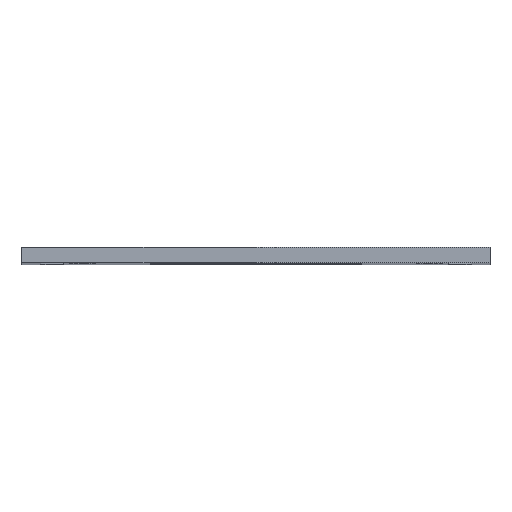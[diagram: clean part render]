
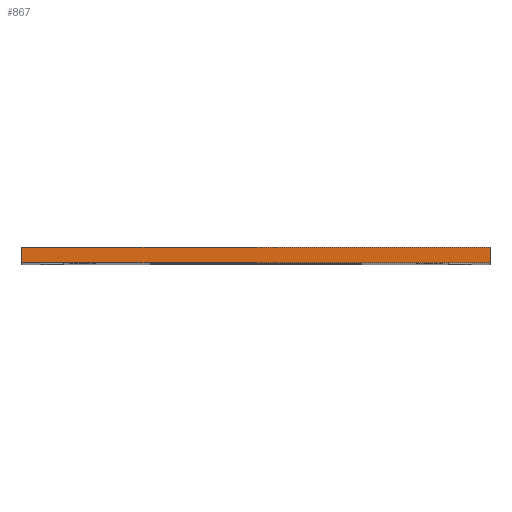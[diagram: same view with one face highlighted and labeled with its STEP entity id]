
A CAD part, top view. The second image highlights one B-rep face of the part: STEP entity #867.
In plain terms, the highlighted planar face has unit normal (0, 0, 1).
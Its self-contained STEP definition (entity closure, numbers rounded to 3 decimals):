
#24 = VERTEX_POINT('',#25);
#25 = CARTESIAN_POINT('',(-31.,15.,-1.));
#32 = PLANE('',#33);
#33 = AXIS2_PLACEMENT_3D('',#34,#35,#36);
#34 = CARTESIAN_POINT('',(-31.,15.,-149.));
#35 = DIRECTION('',(1.,0.,0.));
#36 = DIRECTION('',(0.,0.,1.));
#44 = PLANE('',#45);
#45 = AXIS2_PLACEMENT_3D('',#46,#47,#48);
#46 = CARTESIAN_POINT('',(-31.,15.,-149.));
#47 = DIRECTION('',(0.,1.,0.));
#48 = DIRECTION('',(0.,0.,1.));
#85 = VERTEX_POINT('',#86);
#86 = CARTESIAN_POINT('',(-31.,17.,-1.));
#100 = PLANE('',#101);
#101 = AXIS2_PLACEMENT_3D('',#102,#103,#104);
#102 = CARTESIAN_POINT('',(-31.,17.,-149.));
#103 = DIRECTION('',(0.,1.,0.));
#104 = DIRECTION('',(0.,0.,1.));
#112 = EDGE_CURVE('',#24,#85,#113,.T.);
#113 = SURFACE_CURVE('',#114,(#118,#125),.PCURVE_S1.);
#114 = LINE('',#115,#116);
#115 = CARTESIAN_POINT('',(-31.,15.,-1.));
#116 = VECTOR('',#117,1.);
#117 = DIRECTION('',(0.,1.,0.));
#118 = PCURVE('',#32,#119);
#119 = DEFINITIONAL_REPRESENTATION('',(#120),#124);
#120 = LINE('',#121,#122);
#121 = CARTESIAN_POINT('',(148.,0.));
#122 = VECTOR('',#123,1.);
#123 = DIRECTION('',(0.,-1.));
#124 = ( GEOMETRIC_REPRESENTATION_CONTEXT(2) 
PARAMETRIC_REPRESENTATION_CONTEXT() REPRESENTATION_CONTEXT('2D SPACE',''
  ) );
#125 = PCURVE('',#126,#131);
#126 = PLANE('',#127);
#127 = AXIS2_PLACEMENT_3D('',#128,#129,#130);
#128 = CARTESIAN_POINT('',(-31.,15.,-1.));
#129 = DIRECTION('',(0.,0.,1.));
#130 = DIRECTION('',(1.,0.,0.));
#131 = DEFINITIONAL_REPRESENTATION('',(#132),#136);
#132 = LINE('',#133,#134);
#133 = CARTESIAN_POINT('',(0.,0.));
#134 = VECTOR('',#135,1.);
#135 = DIRECTION('',(0.,1.));
#136 = ( GEOMETRIC_REPRESENTATION_CONTEXT(2) 
PARAMETRIC_REPRESENTATION_CONTEXT() REPRESENTATION_CONTEXT('2D SPACE',''
  ) );
#165 = EDGE_CURVE('',#24,#166,#168,.T.);
#166 = VERTEX_POINT('',#167);
#167 = CARTESIAN_POINT('',(31.,15.,-1.));
#168 = SURFACE_CURVE('',#169,(#173,#180),.PCURVE_S1.);
#169 = LINE('',#170,#171);
#170 = CARTESIAN_POINT('',(-31.,15.,-1.));
#171 = VECTOR('',#172,1.);
#172 = DIRECTION('',(1.,0.,0.));
#173 = PCURVE('',#44,#174);
#174 = DEFINITIONAL_REPRESENTATION('',(#175),#179);
#175 = LINE('',#176,#177);
#176 = CARTESIAN_POINT('',(148.,0.));
#177 = VECTOR('',#178,1.);
#178 = DIRECTION('',(0.,1.));
#179 = ( GEOMETRIC_REPRESENTATION_CONTEXT(2) 
PARAMETRIC_REPRESENTATION_CONTEXT() REPRESENTATION_CONTEXT('2D SPACE',''
  ) );
#180 = PCURVE('',#126,#181);
#181 = DEFINITIONAL_REPRESENTATION('',(#182),#186);
#182 = LINE('',#183,#184);
#183 = CARTESIAN_POINT('',(0.,0.));
#184 = VECTOR('',#185,1.);
#185 = DIRECTION('',(1.,0.));
#186 = ( GEOMETRIC_REPRESENTATION_CONTEXT(2) 
PARAMETRIC_REPRESENTATION_CONTEXT() REPRESENTATION_CONTEXT('2D SPACE',''
  ) );
#202 = PLANE('',#203);
#203 = AXIS2_PLACEMENT_3D('',#204,#205,#206);
#204 = CARTESIAN_POINT('',(31.,15.,-149.));
#205 = DIRECTION('',(1.,0.,0.));
#206 = DIRECTION('',(0.,0.,1.));
#867 = ADVANCED_FACE('',(#868),#126,.T.);
#868 = FACE_BOUND('',#869,.T.);
#869 = EDGE_LOOP('',(#870,#871,#872,#895));
#870 = ORIENTED_EDGE('',*,*,#112,.F.);
#871 = ORIENTED_EDGE('',*,*,#165,.T.);
#872 = ORIENTED_EDGE('',*,*,#873,.T.);
#873 = EDGE_CURVE('',#166,#874,#876,.T.);
#874 = VERTEX_POINT('',#875);
#875 = CARTESIAN_POINT('',(31.,17.,-1.));
#876 = SURFACE_CURVE('',#877,(#881,#888),.PCURVE_S1.);
#877 = LINE('',#878,#879);
#878 = CARTESIAN_POINT('',(31.,15.,-1.));
#879 = VECTOR('',#880,1.);
#880 = DIRECTION('',(0.,1.,0.));
#881 = PCURVE('',#126,#882);
#882 = DEFINITIONAL_REPRESENTATION('',(#883),#887);
#883 = LINE('',#884,#885);
#884 = CARTESIAN_POINT('',(62.,0.));
#885 = VECTOR('',#886,1.);
#886 = DIRECTION('',(0.,1.));
#887 = ( GEOMETRIC_REPRESENTATION_CONTEXT(2) 
PARAMETRIC_REPRESENTATION_CONTEXT() REPRESENTATION_CONTEXT('2D SPACE',''
  ) );
#888 = PCURVE('',#202,#889);
#889 = DEFINITIONAL_REPRESENTATION('',(#890),#894);
#890 = LINE('',#891,#892);
#891 = CARTESIAN_POINT('',(148.,0.));
#892 = VECTOR('',#893,1.);
#893 = DIRECTION('',(0.,-1.));
#894 = ( GEOMETRIC_REPRESENTATION_CONTEXT(2) 
PARAMETRIC_REPRESENTATION_CONTEXT() REPRESENTATION_CONTEXT('2D SPACE',''
  ) );
#895 = ORIENTED_EDGE('',*,*,#896,.F.);
#896 = EDGE_CURVE('',#85,#874,#897,.T.);
#897 = SURFACE_CURVE('',#898,(#902,#909),.PCURVE_S1.);
#898 = LINE('',#899,#900);
#899 = CARTESIAN_POINT('',(-31.,17.,-1.));
#900 = VECTOR('',#901,1.);
#901 = DIRECTION('',(1.,0.,0.));
#902 = PCURVE('',#126,#903);
#903 = DEFINITIONAL_REPRESENTATION('',(#904),#908);
#904 = LINE('',#905,#906);
#905 = CARTESIAN_POINT('',(0.,2.));
#906 = VECTOR('',#907,1.);
#907 = DIRECTION('',(1.,0.));
#908 = ( GEOMETRIC_REPRESENTATION_CONTEXT(2) 
PARAMETRIC_REPRESENTATION_CONTEXT() REPRESENTATION_CONTEXT('2D SPACE',''
  ) );
#909 = PCURVE('',#100,#910);
#910 = DEFINITIONAL_REPRESENTATION('',(#911),#915);
#911 = LINE('',#912,#913);
#912 = CARTESIAN_POINT('',(148.,0.));
#913 = VECTOR('',#914,1.);
#914 = DIRECTION('',(0.,1.));
#915 = ( GEOMETRIC_REPRESENTATION_CONTEXT(2) 
PARAMETRIC_REPRESENTATION_CONTEXT() REPRESENTATION_CONTEXT('2D SPACE',''
  ) );
